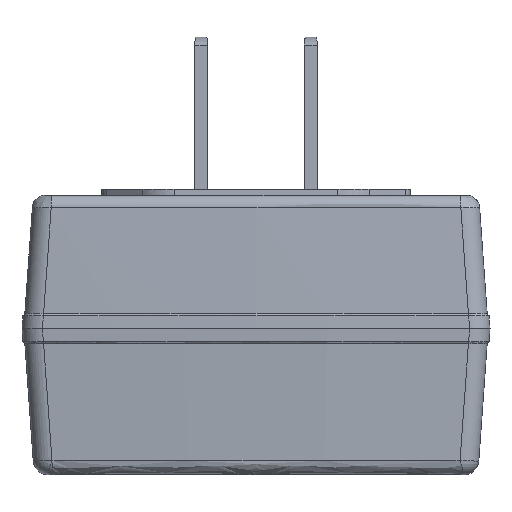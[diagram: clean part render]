
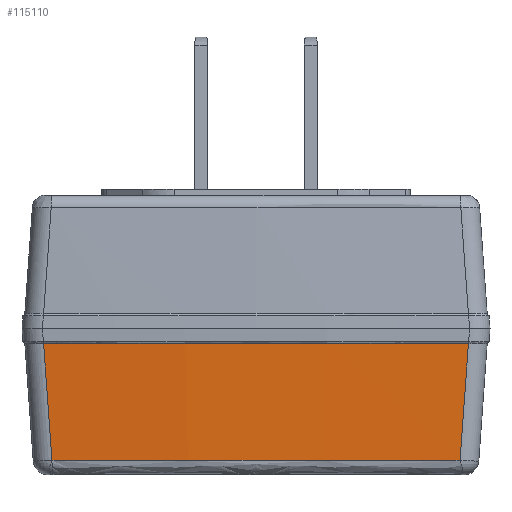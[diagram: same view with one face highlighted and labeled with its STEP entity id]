
A CAD part, left-side view. The second image highlights one B-rep face of the part: STEP entity #115110.
In plain terms, the highlighted conical face has half-angle 2.3 degrees and reference radius 1 mm.
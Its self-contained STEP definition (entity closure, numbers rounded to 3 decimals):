
#103930=CARTESIAN_POINT('',(15.208,-37.864,
15.244));
#103940=VERTEX_POINT('',#103930);
#104300=CARTESIAN_POINT('',(38.805,448.323,
15.343));
#104310=DIRECTION('',(0.,0.,
1.));
#104320=DIRECTION('',(-0.048,-0.999,
0.));
#104330=AXIS2_PLACEMENT_3D('',#104300,#104310,#104320);
#104340=CIRCLE('',#104330,486.76);
#104350=CARTESIAN_POINT('',(62.404,-37.864,
15.244));
#104360=VERTEX_POINT('',#104350);
#104370=EDGE_CURVE('',#103940,#104360,#104340,.T.);
#114330=CARTESIAN_POINT('',(14.24,-38.358,
1.766));
#114340=VERTEX_POINT('',#114330);
#114640=CARTESIAN_POINT('',(15.208,-37.864,
15.244));
#114650=CARTESIAN_POINT('',(15.1,-37.919,
13.746));
#114660=CARTESIAN_POINT('',(14.884,-38.029,
10.75));
#114670=CARTESIAN_POINT('',(14.564,-38.194,
6.257));
#114680=CARTESIAN_POINT('',(14.348,-38.304,
3.263));
#114690=CARTESIAN_POINT('',(14.24,-38.358,
1.766));
#114700=B_SPLINE_CURVE_WITH_KNOTS('',3,(#114640,#114650,#114660,#114670,
#114680,#114690),.UNSPECIFIED.,.F.,.F.,(4,1,1,4),(0.,0.333,
0.667,1.),.UNSPECIFIED.);
#114710=EDGE_CURVE('',#103940,#114340,#114700,.T.);
#114840=CARTESIAN_POINT('',(38.805,448.228,
12107.238));
#114850=DIRECTION('',(0.,0.,-1.));
#114860=DIRECTION('',(-1.,0.,0.));
#114870=AXIS2_PLACEMENT_3D('',#114840,#114850,#114860);
#114880=CONICAL_SURFACE('',#114870,1.,0.04);
#114890=ORIENTED_EDGE('',*,*,#114710,.T.);
#114900=ORIENTED_EDGE('',*,*,#104370,.F.);
#114910=CARTESIAN_POINT('',(63.372,-38.358,
1.766));
#114920=CARTESIAN_POINT('',(63.264,-38.304,
3.263));
#114930=CARTESIAN_POINT('',(63.048,-38.194,
6.257));
#114940=CARTESIAN_POINT('',(62.728,-38.029,
10.75));
#114950=CARTESIAN_POINT('',(62.512,-37.919,
13.746));
#114960=CARTESIAN_POINT('',(62.404,-37.864,
15.244));
#114970=B_SPLINE_CURVE_WITH_KNOTS('',3,(#114910,#114920,#114930,#114940,
#114950,#114960),.UNSPECIFIED.,.F.,.F.,(4,1,1,4),(0.,0.333,
0.667,1.),.UNSPECIFIED.);
#114980=CARTESIAN_POINT('',(63.372,-38.358,
1.766));
#114990=VERTEX_POINT('',#114980);
#115000=EDGE_CURVE('',#114990,#104360,#114970,.T.);
#115010=ORIENTED_EDGE('',*,*,#115000,.T.);
#115020=CARTESIAN_POINT('',(38.805,448.348,
1.858));
#115030=DIRECTION('',(0.,0.,
-1.));
#115040=DIRECTION('',(0.05,-0.999,
0.));
#115050=AXIS2_PLACEMENT_3D('',#115020,#115030,#115040);
#115060=CIRCLE('',#115050,487.326);
#115070=EDGE_CURVE('',#114990,#114340,#115060,.T.);
#115080=ORIENTED_EDGE('',*,*,#115070,.F.);
#115090=EDGE_LOOP('',(#115080,#115010,#114900,#114890));
#115100=FACE_OUTER_BOUND('',#115090,.T.);
#115110=ADVANCED_FACE('',(#115100),#114880,.T.);
